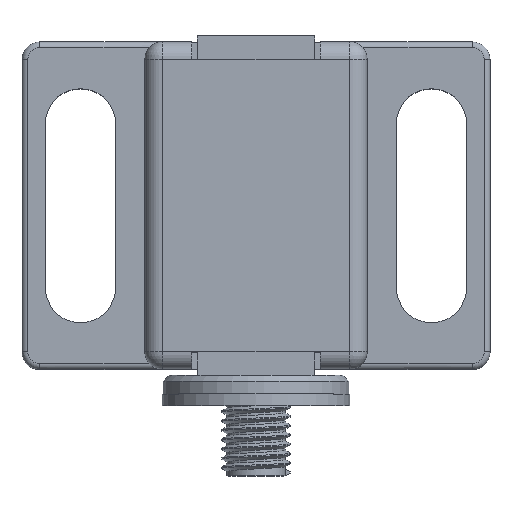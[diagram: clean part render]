
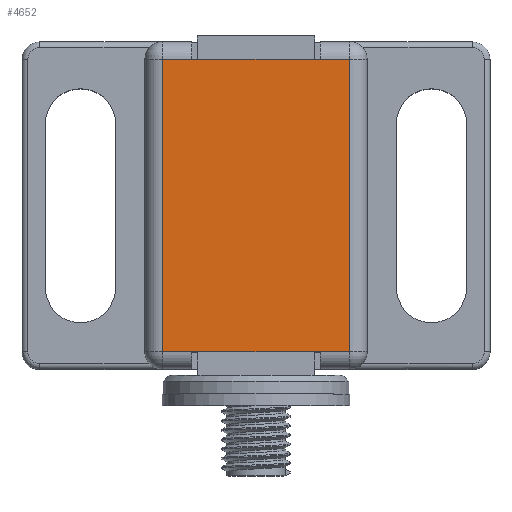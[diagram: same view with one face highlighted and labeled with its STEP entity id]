
A CAD part, top view. The second image highlights one B-rep face of the part: STEP entity #4652.
In plain terms, the highlighted planar face has unit normal (0, 0, 1).
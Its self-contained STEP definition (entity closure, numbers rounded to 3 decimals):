
#19 = VERTEX_POINT ( 'NONE', #3670 ) ;
#26 = DIRECTION ( 'NONE',  ( 1., 0., 0. ) ) ;
#103 = ORIENTED_EDGE ( 'NONE', *, *, #215, .T. ) ;
#151 = CARTESIAN_POINT ( 'NONE',  ( 9.25, 19.5, 20. ) ) ;
#186 = VERTEX_POINT ( 'NONE', #4343 ) ;
#215 = EDGE_CURVE ( 'NONE', #1965, #186, #2006, .T. ) ;
#229 = AXIS2_PLACEMENT_3D ( 'NONE', #3190, #2370, #3617 ) ;
#344 = FACE_OUTER_BOUND ( 'NONE', #4858, .T. ) ;
#359 = LINE ( 'NONE', #4368, #2239 ) ;
#411 = VERTEX_POINT ( 'NONE', #4439 ) ;
#417 = EDGE_CURVE ( 'NONE', #411, #974, #4154, .T. ) ;
#489 = VERTEX_POINT ( 'NONE', #3771 ) ;
#626 = EDGE_CURVE ( 'NONE', #411, #1561, #1853, .T. ) ;
#824 = EDGE_CURVE ( 'NONE', #1303, #1561, #4669, .T. ) ;
#966 = ORIENTED_EDGE ( 'NONE', *, *, #4066, .T. ) ;
#974 = VERTEX_POINT ( 'NONE', #2118 ) ;
#1014 = ORIENTED_EDGE ( 'NONE', *, *, #626, .F. ) ;
#1018 = CARTESIAN_POINT ( 'NONE',  ( 20.5, -5.5, 20. ) ) ;
#1129 = VECTOR ( 'NONE', #1753, 1000. ) ;
#1303 = VERTEX_POINT ( 'NONE', #1923 ) ;
#1324 = CARTESIAN_POINT ( 'NONE',  ( 7., 19.5, 20. ) ) ;
#1508 = LINE ( 'NONE', #4276, #3565 ) ;
#1561 = VERTEX_POINT ( 'NONE', #1324 ) ;
#1584 = VECTOR ( 'NONE', #4260, 1000. ) ;
#1588 = VECTOR ( 'NONE', #5050, 1000. ) ;
#1643 = ORIENTED_EDGE ( 'NONE', *, *, #3054, .T. ) ;
#1661 = CARTESIAN_POINT ( 'NONE',  ( 9.25, 19.5, 20. ) ) ;
#1703 = ORIENTED_EDGE ( 'NONE', *, *, #417, .T. ) ;
#1744 = VECTOR ( 'NONE', #4595, 1000. ) ;
#1753 = DIRECTION ( 'NONE',  ( -1., 0., 0. ) ) ;
#1809 = DIRECTION ( 'NONE',  ( -1., 0., 0. ) ) ;
#1853 = LINE ( 'NONE', #2674, #1588 ) ;
#1923 = CARTESIAN_POINT ( 'NONE',  ( 9.5, 19.5, 20. ) ) ;
#1965 = VERTEX_POINT ( 'NONE', #1018 ) ;
#2006 = LINE ( 'NONE', #4315, #2165 ) ;
#2118 = CARTESIAN_POINT ( 'NONE',  ( 9.5, -5.5, 20. ) ) ;
#2165 = VECTOR ( 'NONE', #3608, 1000. ) ;
#2239 = VECTOR ( 'NONE', #2761, 1000. ) ;
#2370 = DIRECTION ( 'NONE',  ( 0., 0., 1. ) ) ;
#2674 = CARTESIAN_POINT ( 'NONE',  ( 7., -7., 20. ) ) ;
#2761 = DIRECTION ( 'NONE',  ( 0., 1., 0. ) ) ;
#2806 = EDGE_CURVE ( 'NONE', #489, #19, #4196, .T. ) ;
#3054 = EDGE_CURVE ( 'NONE', #186, #489, #359, .T. ) ;
#3060 = ORIENTED_EDGE ( 'NONE', *, *, #2806, .T. ) ;
#3190 = CARTESIAN_POINT ( 'NONE',  ( 9.25, -7., 20. ) ) ;
#3366 = CARTESIAN_POINT ( 'NONE',  ( 9.25, -5.5, 20. ) ) ;
#3565 = VECTOR ( 'NONE', #1809, 1000. ) ;
#3608 = DIRECTION ( 'NONE',  ( 1., 0., 0. ) ) ;
#3617 = DIRECTION ( 'NONE',  ( 1., 0., 0. ) ) ;
#3625 = CARTESIAN_POINT ( 'NONE',  ( 12.125, -5.5, 20. ) ) ;
#3670 = CARTESIAN_POINT ( 'NONE',  ( 20.5, 19.5, 20. ) ) ;
#3771 = CARTESIAN_POINT ( 'NONE',  ( 23., 19.5, 20. ) ) ;
#4066 = EDGE_CURVE ( 'NONE', #19, #1303, #1508, .T. ) ;
#4074 = LINE ( 'NONE', #3625, #4485 ) ;
#4154 = LINE ( 'NONE', #3366, #1584 ) ;
#4196 = LINE ( 'NONE', #1661, #1744 ) ;
#4257 = EDGE_CURVE ( 'NONE', #974, #1965, #4074, .T. ) ;
#4260 = DIRECTION ( 'NONE',  ( 1., 0., 0. ) ) ;
#4276 = CARTESIAN_POINT ( 'NONE',  ( 12.125, 19.5, 20. ) ) ;
#4315 = CARTESIAN_POINT ( 'NONE',  ( 9.25, -5.5, 20. ) ) ;
#4343 = CARTESIAN_POINT ( 'NONE',  ( 23., -5.5, 20. ) ) ;
#4368 = CARTESIAN_POINT ( 'NONE',  ( 23., -7., 20. ) ) ;
#4439 = CARTESIAN_POINT ( 'NONE',  ( 7., -5.5, 20. ) ) ;
#4485 = VECTOR ( 'NONE', #26, 1000. ) ;
#4595 = DIRECTION ( 'NONE',  ( -1., 0., 0. ) ) ;
#4652 = ADVANCED_FACE ( 'NONE', ( #344 ), #5127, .T. ) ;
#4669 = LINE ( 'NONE', #151, #1129 ) ;
#4858 = EDGE_LOOP ( 'NONE', ( #966, #4974, #1014, #1703, #5069, #103, #1643, #3060 ) ) ;
#4974 = ORIENTED_EDGE ( 'NONE', *, *, #824, .T. ) ;
#5050 = DIRECTION ( 'NONE',  ( 0., 1., 0. ) ) ;
#5069 = ORIENTED_EDGE ( 'NONE', *, *, #4257, .T. ) ;
#5127 = PLANE ( 'NONE',  #229 ) ;
